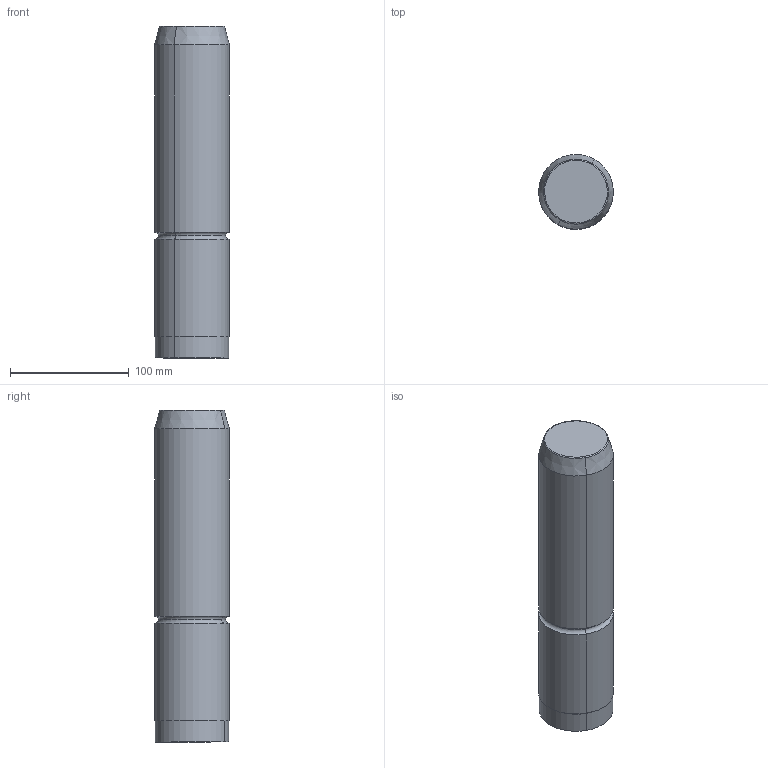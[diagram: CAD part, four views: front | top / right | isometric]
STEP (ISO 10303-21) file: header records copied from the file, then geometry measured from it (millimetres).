
FILE_DESCRIPTION(('CATIA V5 STEP Exchange'),'2;1');
FILE_NAME('C:\Users\Utente\Desktop\IO LAVORO\3D X SITO CF\X SITO\M104\M104-63x280.stp','2020-12-26T21:21:41+00:00',('none'),('none'),'CATIA Version 5 Release 20 GA (IN-10)','CATIA V5 STEP AP203','none');
FILE_SCHEMA(('CONFIG_CONTROL_DESIGN'));
Length unit declared in the file: millimetre
Products named in the file (1): M104-63x280
Bounding box: 62.98 x 62.98 x 280 mm (x, y, z)
Volume: 861699.2 mm3; surface area: 61234.3 mm2
Topology: 1 solids, 1 shells, 17 faces, 32 edges, 18 vertices
Faces by surface type: cylinder 6, torus 6, plane 3, cone 2
Entity records: 438 total; most frequent: CARTESIAN_POINT 66, ORIENTED_EDGE 64, DIRECTION 62, AXIS2_PLACEMENT_3D 40, EDGE_CURVE 32, CIRCLE 24, EDGE_LOOP 18, VERTEX_POINT 18
